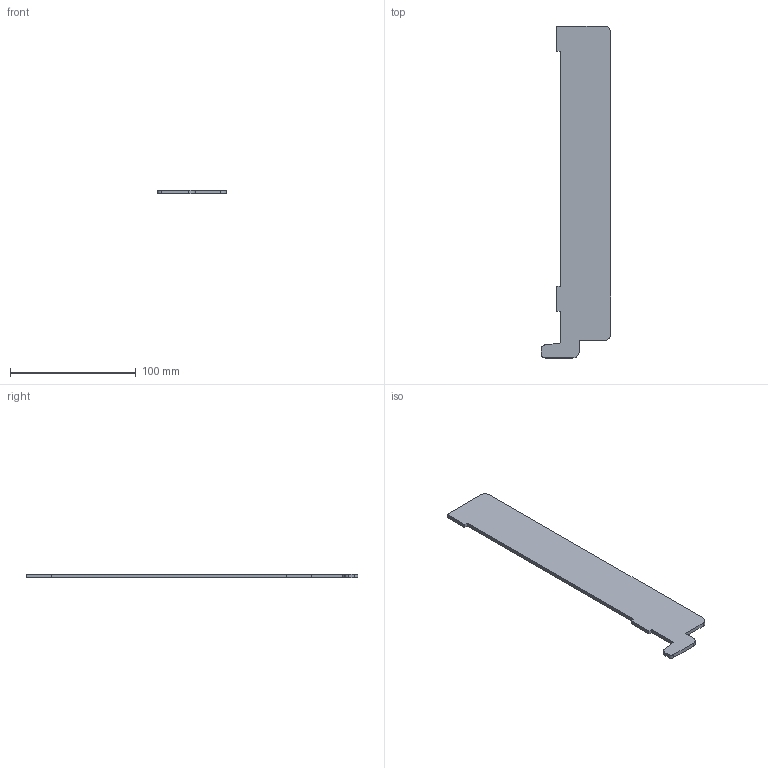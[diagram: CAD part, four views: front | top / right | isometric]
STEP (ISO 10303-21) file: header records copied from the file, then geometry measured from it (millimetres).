
FILE_DESCRIPTION (( 'STEP AP203' ), '1' );
FILE_NAME ('ORW-72.24.60.002 Ðåáðî.STEP', '2025-10-13T13:18:11', ( 'Àíäðåé' ), ( '' ), 'SwSTEP 2.0', 'SolidWorks 2025', '' );
FILE_SCHEMA (( 'CONFIG_CONTROL_DESIGN' ));
Length unit declared in the file: millimetre
Products named in the file (1): ORW-72.24.60.002 Ребро
Bounding box: 55 x 264 x 3 mm (x, y, z)
Volume: 31426.7 mm3; surface area: 22869.5 mm2
Topology: 1 solids, 1 shells, 21 faces, 57 edges, 38 vertices
Faces by surface type: plane 16, cylinder 5
Entity records: 733 total; most frequent: CARTESIAN_POINT 120, ORIENTED_EDGE 114, DIRECTION 108, EDGE_CURVE 57, LINE 44, VECTOR 44, VERTEX_POINT 38, AXIS2_PLACEMENT_3D 32
